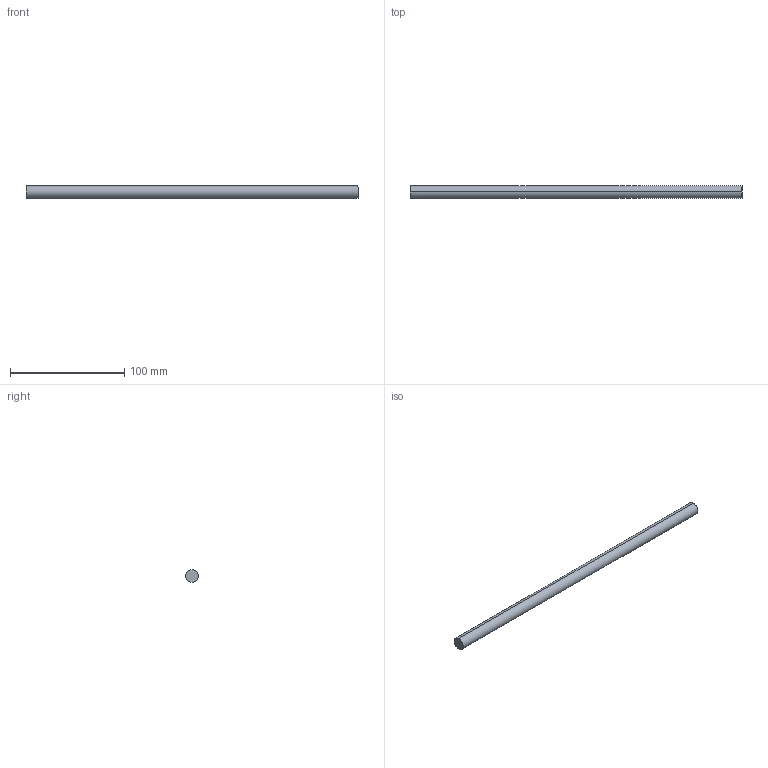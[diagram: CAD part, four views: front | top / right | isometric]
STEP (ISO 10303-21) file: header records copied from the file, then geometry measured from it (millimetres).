
FILE_DESCRIPTION (( 'STEP AP214' ), '1' );
FILE_NAME ('Querreling_Frontblende_Innenlade_KS-16_25mm-Halter_KAB-400.step', '2010-09-22T15:05:38', ( 'grass' ), ( '' ), 'SwSTEP 2.0', 'SolidWorks 2010', '' );
FILE_SCHEMA (( 'AUTOMOTIVE_DESIGN' ));
Length unit declared in the file: millimetre
Products named in the file (1): Querreling_Frontblende_Innenlade_KS-16_25mm-Halter_KAB-400
Bounding box: 290 x 11 x 11 mm (x, y, z)
Volume: 27559.6 mm3; surface area: 10211.7 mm2
Topology: 1 solids, 1 shells, 4 faces, 6 edges, 4 vertices
Faces by surface type: cylinder 2, plane 2
Entity records: 128 total; most frequent: DIRECTION 20, CARTESIAN_POINT 15, ORIENTED_EDGE 12, AXIS2_PLACEMENT_3D 9, EDGE_CURVE 6, FACE_OUTER_BOUND 4, CIRCLE 4, EDGE_LOOP 4
